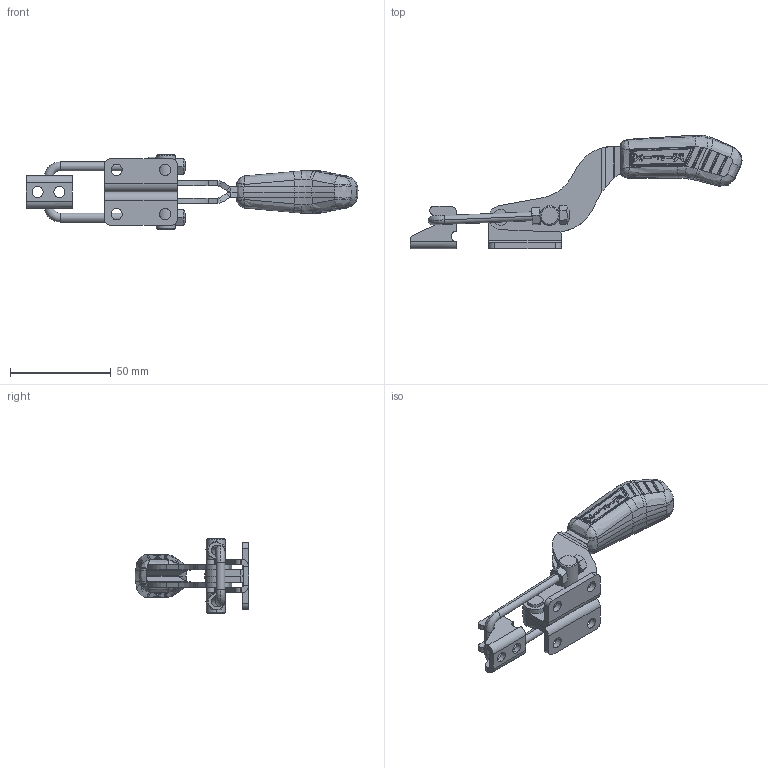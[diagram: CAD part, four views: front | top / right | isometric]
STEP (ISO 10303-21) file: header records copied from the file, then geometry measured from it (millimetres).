
FILE_DESCRIPTION (( 'STEP AP203' ), '1' );
FILE_NAME ('KF-643 D.STEP', '2017-10-05T11:54:48', ( 'Ricardo' ), ( '' ), 'SwSTEP 2.0', 'SolidWorks 2015', '' );
FILE_SCHEMA (( 'CONFIG_CONTROL_DESIGN' ));
Length unit declared in the file: millimetre
Products named in the file (12): 01.10048_Esquerda; 16.20034; 03.20018; 15.10026; 11.50005; 11.50013; 02.12039_Direita; 07.60005; 02.12039_Esquerda; 06.50023; 01.10048_Direita; KF-643 D
Assembly tree (13 placements, depth 2):
  KF-643 D
    02.12039_Direita
    02.12039_Esquerda
    01.10048_Direita
    01.10048_Esquerda
    16.20034
    03.20018
    15.10026
    11.50005  x2
    11.50013  x2
    07.60005
    06.50023
Bounding box: 164.38 x 56.33 x 37 mm (x, y, z)
Volume: 38718.5 mm3; surface area: 26896.5 mm2
Topology: 13 solids, 13 shells, 924 faces, 2342 edges, 1454 vertices
Faces by surface type: cylinder 284, bspline 279, plane 237, cone 66, sphere 50, torus 8
Entity records: 34706 total; most frequent: CARTESIAN_POINT 14917, ORIENTED_EDGE 4448, DIRECTION 3066, EDGE_CURVE 2224, VERTEX_POINT 1387, AXIS2_PLACEMENT_3D 1158, EDGE_LOOP 927, ADVANCED_FACE 875
